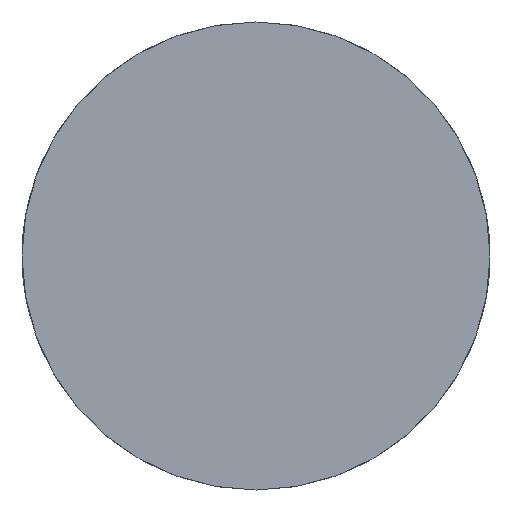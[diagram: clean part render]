
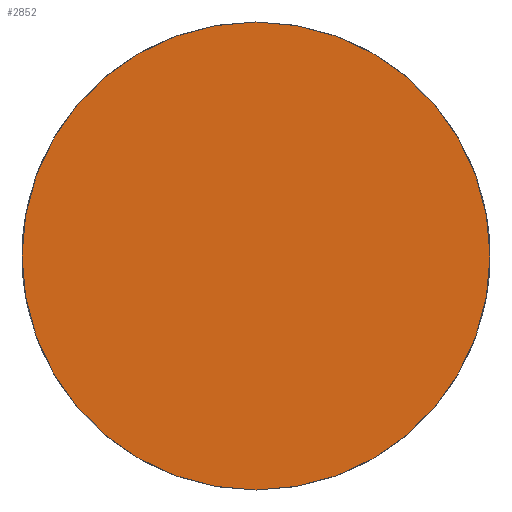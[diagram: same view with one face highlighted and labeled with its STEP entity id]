
A CAD part, front view. The second image highlights one B-rep face of the part: STEP entity #2852.
In plain terms, the highlighted planar face has unit normal (0, -1, 0).
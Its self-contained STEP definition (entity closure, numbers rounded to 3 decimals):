
#85 = CIRCLE ( 'NONE', #2710, 40. ) ;
#128 = CIRCLE ( 'NONE', #3704, 40. ) ;
#705 = FACE_OUTER_BOUND ( 'NONE', #4833, .T. ) ;
#826 = CARTESIAN_POINT ( 'NONE',  ( 0., 0., 0. ) ) ;
#894 = CARTESIAN_POINT ( 'NONE',  ( 0., 0., 40. ) ) ;
#1016 = CARTESIAN_POINT ( 'NONE',  ( 0., 0., -40. ) ) ;
#1387 = CARTESIAN_POINT ( 'NONE',  ( 0., 0., 0. ) ) ;
#1603 = CARTESIAN_POINT ( 'NONE',  ( -41.6, 0., -41.6 ) ) ;
#2073 = EDGE_CURVE ( 'NONE', #3887, #3718, #128, .T. ) ;
#2693 = ORIENTED_EDGE ( 'NONE', *, *, #2073, .T. ) ;
#2710 = AXIS2_PLACEMENT_3D ( 'NONE', #1387, #3867, #3078 ) ;
#2852 = ADVANCED_FACE ( 'NONE', ( #705 ), #5360, .T. ) ;
#3078 = DIRECTION ( 'NONE',  ( 0., 0., -1. ) ) ;
#3195 = DIRECTION ( 'NONE',  ( 1., 0., 0. ) ) ;
#3704 = AXIS2_PLACEMENT_3D ( 'NONE', #826, #4582, #3751 ) ;
#3718 = VERTEX_POINT ( 'NONE', #1016 ) ;
#3751 = DIRECTION ( 'NONE',  ( 0., 0., -1. ) ) ;
#3867 = DIRECTION ( 'NONE',  ( 0., -1., 0. ) ) ;
#3887 = VERTEX_POINT ( 'NONE', #894 ) ;
#4532 = DIRECTION ( 'NONE',  ( 0., -1., 0. ) ) ;
#4582 = DIRECTION ( 'NONE',  ( 0., -1., 0. ) ) ;
#4784 = ORIENTED_EDGE ( 'NONE', *, *, #5187, .T. ) ;
#4833 = EDGE_LOOP ( 'NONE', ( #4784, #2693 ) ) ;
#5104 = AXIS2_PLACEMENT_3D ( 'NONE', #1603, #4532, #3195 ) ;
#5187 = EDGE_CURVE ( 'NONE', #3718, #3887, #85, .T. ) ;
#5360 = PLANE ( 'NONE',  #5104 ) ;
